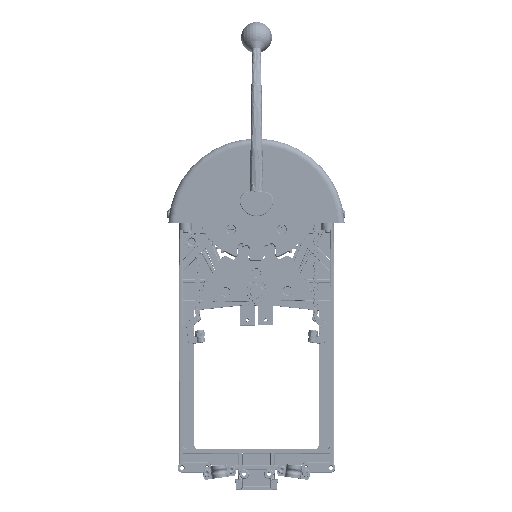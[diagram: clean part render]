
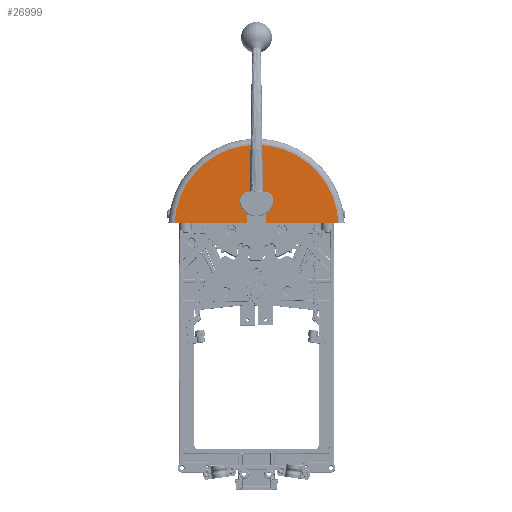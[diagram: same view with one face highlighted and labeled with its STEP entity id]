
A CAD part, top view. The second image highlights one B-rep face of the part: STEP entity #26999.
In plain terms, the highlighted planar face has unit normal (0, 0, 1).
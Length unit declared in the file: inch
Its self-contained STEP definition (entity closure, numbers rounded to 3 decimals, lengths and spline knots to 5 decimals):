
#2445 = DIRECTION ( 'NONE',  ( 1., 0., 0. ) ) ;
#5029 = ORIENTED_EDGE ( 'NONE', *, *, #246301, .F. ) ;
#25745 = ORIENTED_EDGE ( 'NONE', *, *, #284426, .F. ) ;
#26999 = ADVANCED_FACE ( 'NONE', ( #39334 ), #221112, .T. ) ;
#30584 = CARTESIAN_POINT ( 'NONE',  ( -0.3845, 0.7325, 3.392 ) ) ;
#36262 = DIRECTION ( 'NONE',  ( 0., 0., 1. ) ) ;
#39334 = FACE_OUTER_BOUND ( 'NONE', #180697, .T. ) ;
#40673 = EDGE_CURVE ( 'NONE', #195739, #47559, #165160, .T. ) ;
#47559 = VERTEX_POINT ( 'NONE', #30584 ) ;
#52930 = AXIS2_PLACEMENT_3D ( 'NONE', #224143, #36262, #204106 ) ;
#56705 = CARTESIAN_POINT ( 'NONE',  ( -0.3845, -0.17058, 3.392 ) ) ;
#63284 = EDGE_CURVE ( 'NONE', #116117, #128605, #90092, .T. ) ;
#65125 = DIRECTION ( 'NONE',  ( 0., 0., 1. ) ) ;
#66634 = DIRECTION ( 'NONE',  ( 1., 0., 0. ) ) ;
#75124 = ORIENTED_EDGE ( 'NONE', *, *, #291021, .F. ) ;
#90092 = CIRCLE ( 'NONE', #168129, 3.32058 ) ;
#93716 = VECTOR ( 'NONE', #196490, 39.37008 ) ;
#102093 = DIRECTION ( 'NONE',  ( -1., 0., 0. ) ) ;
#107008 = VERTEX_POINT ( 'NONE', #246592 ) ;
#113038 = ORIENTED_EDGE ( 'NONE', *, *, #63284, .T. ) ;
#116117 = VERTEX_POINT ( 'NONE', #139288 ) ;
#126123 = VECTOR ( 'NONE', #284289, 39.37008 ) ;
#128605 = VERTEX_POINT ( 'NONE', #249218 ) ;
#139288 = CARTESIAN_POINT ( 'NONE',  ( 3.31619, 0., 3.392 ) ) ;
#146310 = CARTESIAN_POINT ( 'NONE',  ( 0.3845, -0.17058, 3.392 ) ) ;
#146622 = VECTOR ( 'NONE', #293874, 39.37008 ) ;
#165160 = CIRCLE ( 'NONE', #52930, 0.3845 ) ;
#165681 = VERTEX_POINT ( 'NONE', #202275 ) ;
#166334 = ORIENTED_EDGE ( 'NONE', *, *, #217475, .F. ) ;
#168129 = AXIS2_PLACEMENT_3D ( 'NONE', #299268, #65125, #66634 ) ;
#168401 = VECTOR ( 'NONE', #102093, 39.37008 ) ;
#172038 = CARTESIAN_POINT ( 'NONE',  ( 3.5665, 0., 3.392 ) ) ;
#172166 = LINE ( 'NONE', #146310, #126123 ) ;
#180697 = EDGE_LOOP ( 'NONE', ( #75124, #183151, #25745, #5029, #113038, #166334 ) ) ;
#181155 = CARTESIAN_POINT ( 'NONE',  ( 0., -0.17058, 3.392 ) ) ;
#183151 = ORIENTED_EDGE ( 'NONE', *, *, #40673, .F. ) ;
#195739 = VERTEX_POINT ( 'NONE', #249037 ) ;
#196490 = DIRECTION ( 'NONE',  ( -1., 0., 0. ) ) ;
#201718 = LINE ( 'NONE', #56705, #146622 ) ;
#202275 = CARTESIAN_POINT ( 'NONE',  ( -0.3845, 0., 3.392 ) ) ;
#204106 = DIRECTION ( 'NONE',  ( 1., 0., 0. ) ) ;
#217475 = EDGE_CURVE ( 'NONE', #165681, #128605, #244371, .T. ) ;
#219520 = LINE ( 'NONE', #172038, #93716 ) ;
#221112 = PLANE ( 'NONE',  #277150 ) ;
#222763 = CARTESIAN_POINT ( 'NONE',  ( 3.5665, 0., 3.392 ) ) ;
#224143 = CARTESIAN_POINT ( 'NONE',  ( 0., 0.7325, 3.392 ) ) ;
#244371 = LINE ( 'NONE', #222763, #168401 ) ;
#246301 = EDGE_CURVE ( 'NONE', #116117, #107008, #219520, .T. ) ;
#246592 = CARTESIAN_POINT ( 'NONE',  ( 0.3845, 0., 3.392 ) ) ;
#249037 = CARTESIAN_POINT ( 'NONE',  ( 0.3845, 0.7325, 3.392 ) ) ;
#249218 = CARTESIAN_POINT ( 'NONE',  ( -3.31619, 0., 3.392 ) ) ;
#274803 = DIRECTION ( 'NONE',  ( 0., 0., 1. ) ) ;
#277150 = AXIS2_PLACEMENT_3D ( 'NONE', #181155, #274803, #2445 ) ;
#284289 = DIRECTION ( 'NONE',  ( 0., 1., 0. ) ) ;
#284426 = EDGE_CURVE ( 'NONE', #107008, #195739, #172166, .T. ) ;
#291021 = EDGE_CURVE ( 'NONE', #47559, #165681, #201718, .T. ) ;
#293874 = DIRECTION ( 'NONE',  ( 0., -1., 0. ) ) ;
#299268 = CARTESIAN_POINT ( 'NONE',  ( 0., -0.17058, 3.392 ) ) ;
